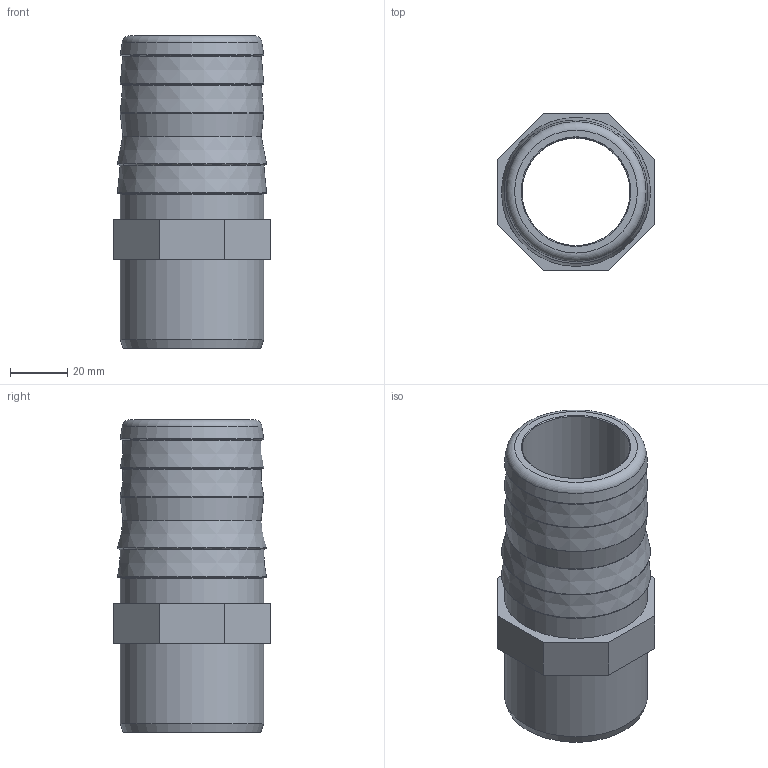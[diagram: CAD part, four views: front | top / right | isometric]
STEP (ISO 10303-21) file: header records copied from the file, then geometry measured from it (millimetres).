
FILE_DESCRIPTION(/* description */ (''),/* implementation_level */ '2;1');
FILE_NAME(/* name */ 'C:\Users\POLYPIPE\Desktop\DATASET INVENTOR\LIBRERIA EFFAST\RACCORDI 3DxWEB\RDR\3D_RDRPGD\3D_RDRPGD0500.stp',/* time_stamp */ '2018-01-19T15:19:15+01:00',/* author */ ('POLYPIPE'),/* organization */ (''),/* preprocessor_version */ 'ST-DEVELOPER v16.1',/* originating_system */ 'Autodesk Inventor 2016',/* authorisation */ '');
FILE_SCHEMA (('CONFIG_CONTROL_DESIGN'));
Length unit declared in the file: millimetre
Products named in the file (1): 3D_RDRPGD0500
Bounding box: 55 x 55 x 109 mm (x, y, z)
Volume: 98516.9 mm3; surface area: 33069.9 mm2
Topology: 1 solids, 1 shells, 39 faces, 79 edges, 48 vertices
Faces by surface type: plane 16, torus 13, cone 7, cylinder 3
Full cylindrical faces by diameter (mm): 37.6 x1, 50 x2
Entity records: 906 total; most frequent: DIRECTION 164, CARTESIAN_POINT 140, ORIENTED_EDGE 108, EDGE_LOOP 70, AXIS2_PLACEMENT_3D 70, EDGE_CURVE 54, VERTEX_POINT 46, FACE_OUTER_BOUND 39
